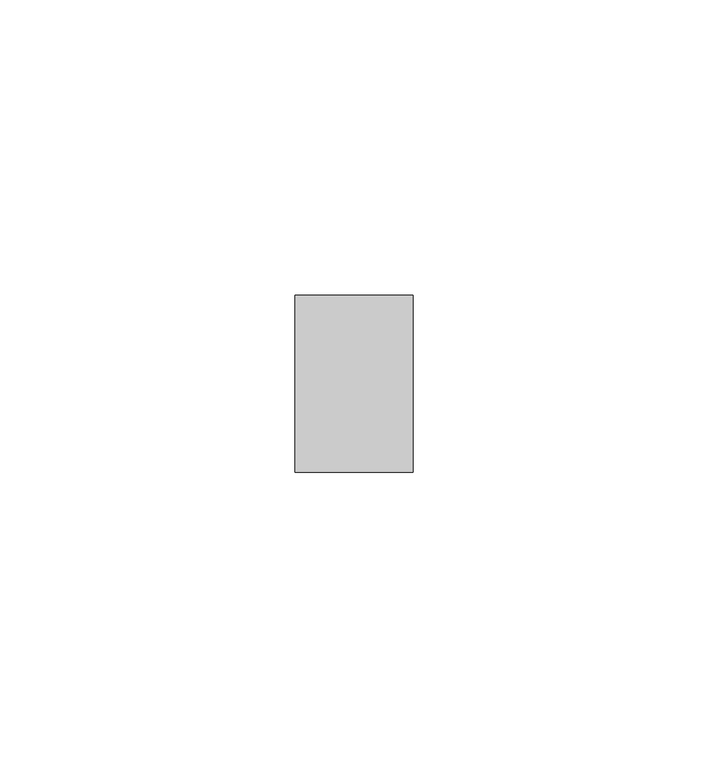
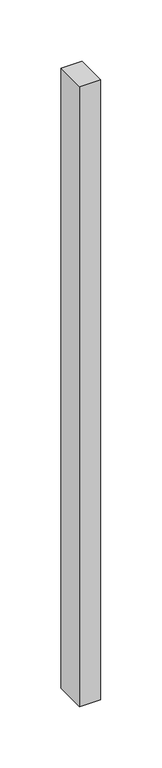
"""IFC4 building model written with IfcOpenShell, lengths in millimetres: member geometry, Прямоугольный импост : Квадрат 10 мм - Зазор между навесными плитами."""

from ifc_helpers import new_model, si_unit, frame, origin, place, context, project, spatial, polyline, outline, extrude, source, transform, mapped, element, save


def member_a471f1fd(model_context):
    return source(origin(), model_context, "Body", "SweptSolid", [
        extrude(outline(polyline([(0.0, 15.0), (0.0, -15.0), (-20.0, -15.0), (-20.0, 15.0), (0.0, 15.0)])), frame((0.0, 0.0, -618.0), z_axis=(0.0, 0.0, 1.0), x_axis=(1.0, 0.0, 0.0)), (0.0, 0.0, 1.0), 618.0),
    ])


if __name__ == "__main__":
    model = new_model("IFC4")
    model_context = context("Model", 3, world=origin())
    ifc_project = project(units=[si_unit("LENGTHUNIT", "METRE", prefix="MILLI")], contexts=[model_context])
    site = spatial("IfcSite", under=ifc_project)
    building = spatial("IfcBuilding", under=site)
    placement = place(None, origin())
    member_shape = member_a471f1fd(model_context)
    element("IfcMember", 1, ObjectType="Прямоугольный импост : Квадрат 10 мм - Зазор между навесными плитами", at=placement, inside=building, context=model_context, shape_type="MappedRepresentation", body=[
        mapped(member_shape, transform((0.0, 0.0, 0.0), x_axis=(1.0, 0.0, 0.0), y_axis=(0.0, 1.0, 0.0), z_axis=(0.0, 0.0, 1.0))),
    ])
    save(model, "model.ifc")
